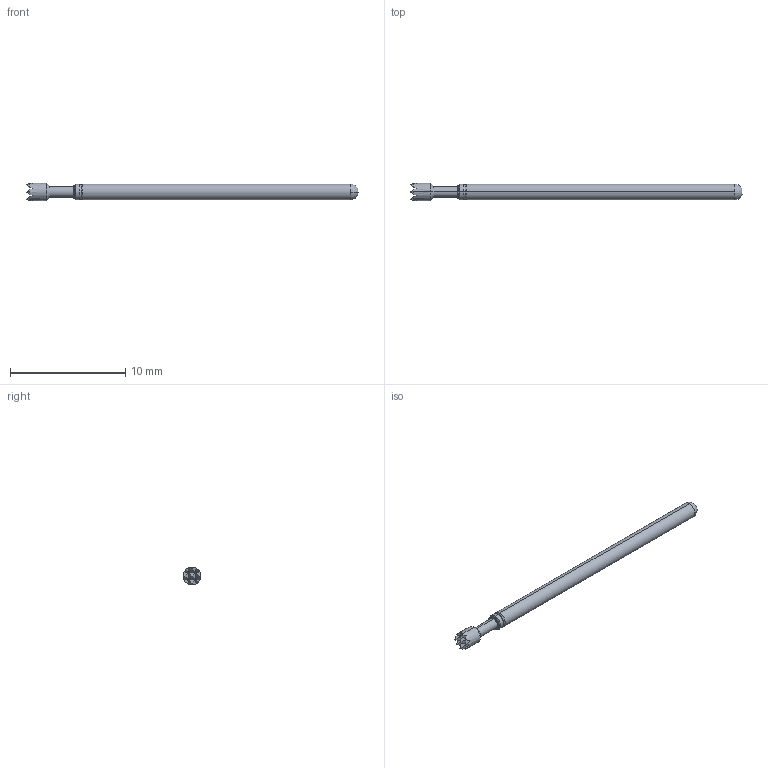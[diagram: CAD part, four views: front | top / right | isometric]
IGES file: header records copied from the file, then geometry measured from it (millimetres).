
Start section: SolidWorks IGES file using analytic representation for surfaces
Global section: file name: Z:\probe solid model mockups\Solidworks models\POGO-25 IGS files\POGO-25H RECD.IGS; native system: SolidWorks 2006 by SolidWorks Corporation; preprocessor: SolidWorks 2006 by SolidWorks Corporation; author: tsakatani; date: 071214.084558; units: inch
Bounding box: 28.78 x 1.52 x 1.52 mm (x, y, z)
Surface area: 125.3 mm2 (no closed solid volume)
Topology: 0 solids, 0 shells, 50 faces, 248 edges, 248 vertices
Faces by surface type: bspline 34, revolution 16
